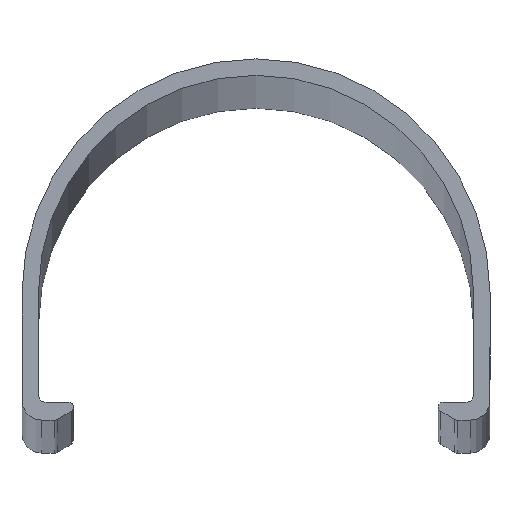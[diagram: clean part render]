
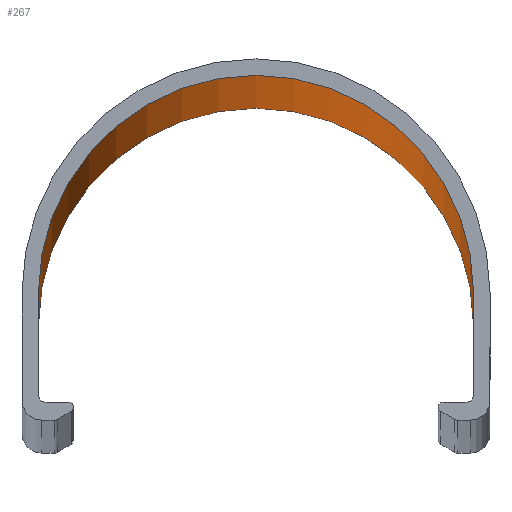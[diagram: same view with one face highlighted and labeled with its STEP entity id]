
A CAD part, top view. The second image highlights one B-rep face of the part: STEP entity #267.
In plain terms, the highlighted cylindrical face has radius 13.25 mm (diameter 26.5 mm), a partial arc.
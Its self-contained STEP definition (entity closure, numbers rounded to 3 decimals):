
#42 = EDGE_CURVE ( 'NONE', #688, #517, #537, .T. ) ;
#65 = DIRECTION ( 'NONE',  ( 0., 0., -1. ) ) ;
#70 = CARTESIAN_POINT ( 'NONE',  ( -13.25, 7.75, 575. ) ) ;
#73 = VECTOR ( 'NONE', #179, 1000. ) ;
#102 = CARTESIAN_POINT ( 'NONE',  ( -13.25, 7.75, 575. ) ) ;
#129 = CARTESIAN_POINT ( 'NONE',  ( 0., 7.75, 575. ) ) ;
#147 = FACE_OUTER_BOUND ( 'NONE', #769, .T. ) ;
#148 = ORIENTED_EDGE ( 'NONE', *, *, #349, .F. ) ;
#161 = CARTESIAN_POINT ( 'NONE',  ( 0., 7.75, -575. ) ) ;
#179 = DIRECTION ( 'NONE',  ( 0., 0., -1. ) ) ;
#181 = ORIENTED_EDGE ( 'NONE', *, *, #294, .T. ) ;
#182 = DIRECTION ( 'NONE',  ( 0., 0., -1. ) ) ;
#183 = ORIENTED_EDGE ( 'NONE', *, *, #42, .F. ) ;
#221 = DIRECTION ( 'NONE',  ( 0., 0., -1. ) ) ;
#236 = AXIS2_PLACEMENT_3D ( 'NONE', #161, #182, #240 ) ;
#240 = DIRECTION ( 'NONE',  ( 1., 0., 0. ) ) ;
#241 = DIRECTION ( 'NONE',  ( 0., 0., -1. ) ) ;
#267 = ADVANCED_FACE ( 'NONE', ( #147 ), #275, .F. ) ;
#268 = VERTEX_POINT ( 'NONE', #387 ) ;
#275 = CYLINDRICAL_SURFACE ( 'NONE', #338, 13.25 ) ;
#294 = EDGE_CURVE ( 'NONE', #268, #517, #438, .T. ) ;
#338 = AXIS2_PLACEMENT_3D ( 'NONE', #445, #221, #516 ) ;
#349 = EDGE_CURVE ( 'NONE', #468, #688, #641, .T. ) ;
#387 = CARTESIAN_POINT ( 'NONE',  ( -13.25, 7.75, -575. ) ) ;
#409 = CARTESIAN_POINT ( 'NONE',  ( 13.25, 7.75, -575. ) ) ;
#411 = CARTESIAN_POINT ( 'NONE',  ( 13.25, 7.75, 575. ) ) ;
#415 = EDGE_CURVE ( 'NONE', #468, #268, #607, .T. ) ;
#438 = CIRCLE ( 'NONE', #236, 13.25 ) ;
#445 = CARTESIAN_POINT ( 'NONE',  ( 0., 7.75, 575. ) ) ;
#454 = VECTOR ( 'NONE', #241, 1000. ) ;
#468 = VERTEX_POINT ( 'NONE', #102 ) ;
#474 = AXIS2_PLACEMENT_3D ( 'NONE', #129, #65, #481 ) ;
#481 = DIRECTION ( 'NONE',  ( 1., 0., 0. ) ) ;
#516 = DIRECTION ( 'NONE',  ( -1., 0., 0. ) ) ;
#517 = VERTEX_POINT ( 'NONE', #409 ) ;
#537 = LINE ( 'NONE', #411, #454 ) ;
#607 = LINE ( 'NONE', #70, #73 ) ;
#641 = CIRCLE ( 'NONE', #474, 13.25 ) ;
#645 = ORIENTED_EDGE ( 'NONE', *, *, #415, .T. ) ;
#688 = VERTEX_POINT ( 'NONE', #693 ) ;
#693 = CARTESIAN_POINT ( 'NONE',  ( 13.25, 7.75, 575. ) ) ;
#769 = EDGE_LOOP ( 'NONE', ( #181, #183, #148, #645 ) ) ;
